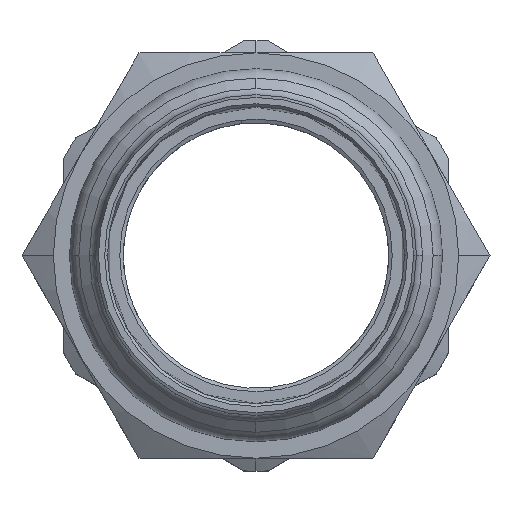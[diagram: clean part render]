
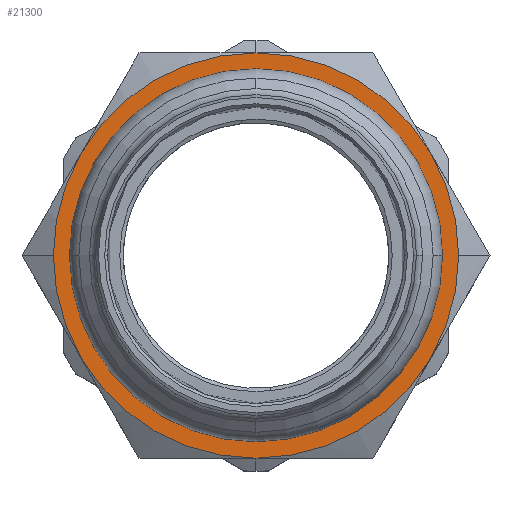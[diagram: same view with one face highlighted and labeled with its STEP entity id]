
A CAD part, top view. The second image highlights one B-rep face of the part: STEP entity #21300.
In plain terms, the highlighted planar face has unit normal (0, 0, 1) as drawn and (0, 0, -1) by its records, which use the part's own axes.
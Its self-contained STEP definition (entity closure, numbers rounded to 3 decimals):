
#20710=CARTESIAN_POINT('',(0.,0.,0.));
#20720=DIRECTION('',(0.,0.,1.));
#20730=DIRECTION('',(1.,0.,0.));
#20740=AXIS2_PLACEMENT_3D('',#20710,#20720,#20730);
#20750=PLANE('',#20740);
#20760=CARTESIAN_POINT('',(76.867,42.022,0.));
#20770=DIRECTION('',(0.,0.,1.));
#20780=DIRECTION('',(1.,0.,0.));
#20790=AXIS2_PLACEMENT_3D('',#20760,#20770,#20780);
#20800=CIRCLE('',#20790,25.1);
#20810=CARTESIAN_POINT('',(51.767,42.022,0.));
#20820=VERTEX_POINT('',#20810);
#20830=CARTESIAN_POINT('',(101.967,42.022,0.));
#20840=VERTEX_POINT('',#20830);
#20850=EDGE_CURVE('',#20820,#20840,#20800,.T.);
#20860=ORIENTED_EDGE('',*,*,#20850,.T.);
#20870=EDGE_CURVE('',#20840,#20820,#20800,.T.);
#20880=ORIENTED_EDGE('',*,*,#20870,.T.);
#20890=EDGE_LOOP('',(#20880,#20860));
#20900=FACE_BOUND('',#20890,.T.);
#20910=CARTESIAN_POINT('',(76.867,42.022,0.));
#20920=DIRECTION('',(0.,0.,1.));
#20930=DIRECTION('',(-1.,0.,0.));
#20940=AXIS2_PLACEMENT_3D('',#20910,#20920,#20930);
#20950=CIRCLE('',#20940,29.);
#20960=CARTESIAN_POINT('',(51.752,56.522,
0.));
#20970=VERTEX_POINT('',#20960);
#20980=CARTESIAN_POINT('',(47.867,42.022,0.));
#20990=VERTEX_POINT('',#20980);
#21000=EDGE_CURVE('',#20970,#20990,#20950,.T.);
#21010=ORIENTED_EDGE('',*,*,#21000,.F.);
#21020=CARTESIAN_POINT('',(51.752,27.522,
0.));
#21030=VERTEX_POINT('',#21020);
#21040=EDGE_CURVE('',#20990,#21030,#20950,.T.);
#21050=ORIENTED_EDGE('',*,*,#21040,.F.);
#21060=CARTESIAN_POINT('',(76.867,13.022,0.));
#21070=VERTEX_POINT('',#21060);
#21080=EDGE_CURVE('',#21030,#21070,#20950,.T.);
#21090=ORIENTED_EDGE('',*,*,#21080,.F.);
#21100=CARTESIAN_POINT('',(101.982,27.522,
0.));
#21110=VERTEX_POINT('',#21100);
#21120=EDGE_CURVE('',#21070,#21110,#20950,.T.);
#21130=ORIENTED_EDGE('',*,*,#21120,.F.);
#21140=CARTESIAN_POINT('',(105.867,42.022,0.));
#21150=VERTEX_POINT('',#21140);
#21160=EDGE_CURVE('',#21110,#21150,#20950,.T.);
#21170=ORIENTED_EDGE('',*,*,#21160,.F.);
#21180=CARTESIAN_POINT('',(101.982,56.522,
0.));
#21190=VERTEX_POINT('',#21180);
#21200=EDGE_CURVE('',#21150,#21190,#20950,.T.);
#21210=ORIENTED_EDGE('',*,*,#21200,.F.);
#21220=CARTESIAN_POINT('',(76.867,71.022,0.));
#21230=VERTEX_POINT('',#21220);
#21240=EDGE_CURVE('',#21190,#21230,#20950,.T.);
#21250=ORIENTED_EDGE('',*,*,#21240,.F.);
#21260=EDGE_CURVE('',#21230,#20970,#20950,.T.);
#21270=ORIENTED_EDGE('',*,*,#21260,.F.);
#21280=EDGE_LOOP('',(#21270,#21250,#21210,#21170,#21130,#21090,#21050,
#21010));
#21290=FACE_OUTER_BOUND('',#21280,.T.);
#21300=ADVANCED_FACE('',(#20900,#21290),#20750,.F.);
